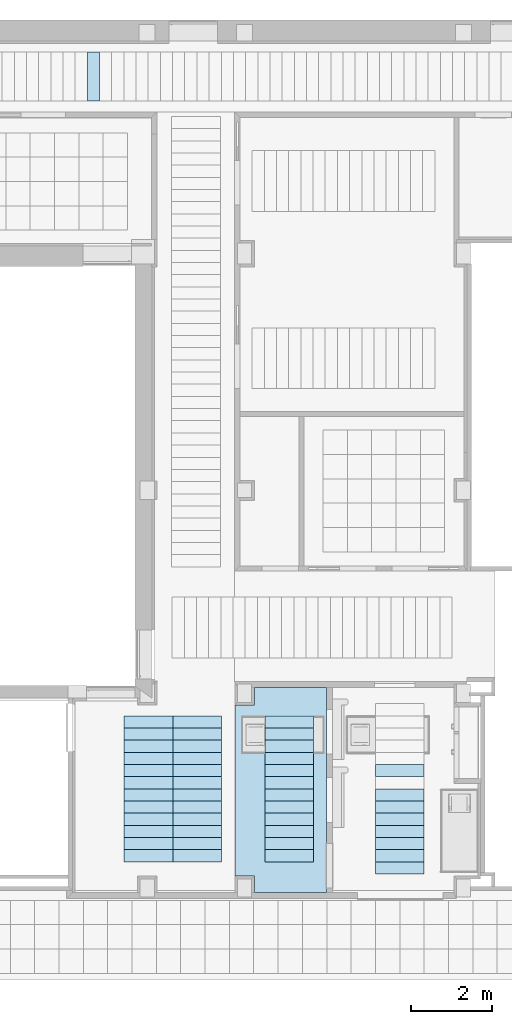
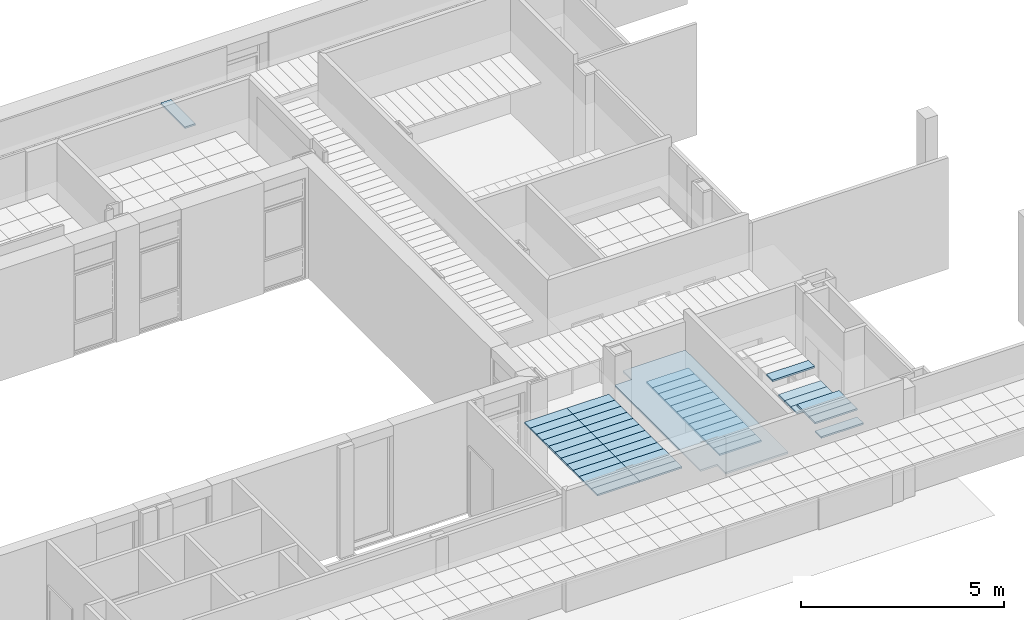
# One storey, part 10 of 60: 46 slabs.
"""IFC2X3 building model written with IfcOpenShell, lengths in millimetres."""

from ifc_helpers import new_model, entity, si_unit, converted_unit, derived_unit, money_unit, direction, frame, origin_with_axes, place, context, subcontext, project, spatial, polyline, outline, extrude, material, layer, layer_set, layer_usage, type_object, element, save


model = new_model("IFC2X3")

# Units and contexts
model_context = context("Model", 3, precision=0.01, world=origin_with_axes(), true_north=direction((0.0, 1.0)))
body_context = subcontext(model_context, "Body", "Model", "MODEL_VIEW")
ifc_project = project(units=[si_unit("LENGTHUNIT", "METRE", prefix="MILLI"), si_unit("AREAUNIT", "SQUARE_METRE"), si_unit("VOLUMEUNIT", "CUBIC_METRE"), converted_unit("PLANEANGLEUNIT", "DEGREE", entity("IfcPlaneAngleMeasure", 0.0174532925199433), si_unit("PLANEANGLEUNIT", "RADIAN"), dimensions=[0, 0, 0, 0, 0, 0, 0]), money_unit("USD"), converted_unit("TIMEUNIT", "Year", entity("IfcTimeMeasure", 31557600.0), si_unit("TIMEUNIT", "SECOND"), dimensions=[0, 0, 1, 0, 0, 0, 0]), si_unit("MASSUNIT", "GRAM", prefix="KILO"), si_unit("THERMODYNAMICTEMPERATUREUNIT", "DEGREE_CELSIUS"), si_unit("LUMINOUSINTENSITYUNIT", "LUMEN"), si_unit("ENERGYUNIT", "JOULE", prefix="MEGA"), derived_unit("THERMALCONDUCTANCEUNIT", [(si_unit("POWERUNIT", "WATT"), 1), (si_unit("LENGTHUNIT", "METRE"), -1), (si_unit("THERMODYNAMICTEMPERATUREUNIT", "KELVIN"), -1)]), derived_unit("SPECIFICHEATCAPACITYUNIT", [(si_unit("ENERGYUNIT", "JOULE"), 1), (si_unit("MASSUNIT", "GRAM", prefix="KILO"), -1), (si_unit("THERMODYNAMICTEMPERATUREUNIT", "KELVIN"), -1)]), derived_unit("MASSDENSITYUNIT", [(si_unit("MASSUNIT", "GRAM", prefix="KILO"), 1), (si_unit("VOLUMEUNIT", "CUBIC_METRE"), -1)])], contexts=[model_context])

# Site, building, storey
site_placement = place(None, origin_with_axes())
site = spatial("IfcSite", under=ifc_project, at=site_placement, Name="Sitio", CompositionType="ELEMENT")
building_placement = place(site_placement, origin_with_axes())
building = spatial("IfcBuilding", under=site, at=building_placement, Name="Construcción", CompositionType="ELEMENT")
storey_placement = place(building_placement, frame((0.0, 0.0, 3650.0), z_axis=(0.0, 0.0, 1.0), x_axis=(1.0, 0.0, 0.0)))
storey = spatial("IfcBuildingStorey", under=building, at=storey_placement, Name="PLANTA 2ª", CompositionType="ELEMENT", Elevation=3650.0)

# Slabs
ifc_material_1 = material(Name="ARQ_ME126_CelRas_Placa_Metallica")
ifc_layer_1 = layer(ifc_material_1, 50.0, ventilated="UNKNOWN")
ifc_layer_set_1 = layer_set([ifc_layer_1], Name="ARQ_ME126_CelRas_Placa_Metallica 50")
ifc_layer_usage_1 = layer_usage(ifc_layer_set_1, "AXIS3", "NEGATIVE", 50.0)
slab_type_1 = type_object("IfcSlabType", Name="ARQ_ME126_CelRas_Placa_Metallica 50", PredefinedType="NOTDEFINED")
slab_1_placement = place(storey_placement, frame((-1162.002209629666, -15771.4759060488, 2500.0), z_axis=(0.0, 0.0, 1.0), x_axis=(1.0, 0.0, 0.0)))
element("IfcSlab", 1, at=slab_1_placement, inside=storey, type_object=slab_type_1, material=ifc_layer_usage_1, Name="SLA - 026", PredefinedType="NOTDEFINED", context=body_context, shape_type="SweptSolid", body=[
    extrude(outline(polyline([(0.0, 0.0), (1199.999999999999, 0.0), (1199.999999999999, 299.9999999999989), (0.0, 299.9999999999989), (0.0, 0.0)])), frame((0.0, 0.0, -50.0), z_axis=(0.0, 0.0, 1.0), x_axis=(1.0, 0.0, 0.0)), (0.0, 0.0, 1.0), 50.0),
])
ifc_layer_usage_2 = layer_usage(ifc_layer_set_1, "AXIS3", "NEGATIVE", 50.0)
slab_2_placement = place(storey_placement, frame((-1162.002209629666, -16071.4759060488, 2500.0), z_axis=(0.0, 0.0, 1.0), x_axis=(1.0, 0.0, 0.0)))
element("IfcSlab", 2, at=slab_2_placement, inside=storey, type_object=slab_type_1, material=ifc_layer_usage_2, Name="SLA - 026", PredefinedType="NOTDEFINED", context=body_context, shape_type="SweptSolid", body=[
    extrude(outline(polyline([(0.0, 0.0), (1199.999999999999, 0.0), (1199.999999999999, 299.9999999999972), (0.0, 299.9999999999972), (0.0, 0.0)])), frame((0.0, 0.0, -50.0), z_axis=(0.0, 0.0, 1.0), x_axis=(1.0, 0.0, 0.0)), (0.0, 0.0, 1.0), 50.0),
])
ifc_layer_usage_3 = layer_usage(ifc_layer_set_1, "AXIS3", "NEGATIVE", 50.0)
slab_3_placement = place(storey_placement, frame((-1162.002209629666, -15471.4759060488, 2500.0), z_axis=(0.0, 0.0, 1.0), x_axis=(1.0, 0.0, 0.0)))
element("IfcSlab", 3, at=slab_3_placement, inside=storey, type_object=slab_type_1, material=ifc_layer_usage_3, Name="SLA - 026", PredefinedType="NOTDEFINED", context=body_context, shape_type="SweptSolid", body=[
    extrude(outline(polyline([(0.0, 0.0), (1199.999999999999, 0.0), (1199.999999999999, 299.9999999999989), (0.0, 299.9999999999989), (0.0, 0.0)])), frame((0.0, 0.0, -50.0), z_axis=(0.0, 0.0, 1.0), x_axis=(1.0, 0.0, 0.0)), (0.0, 0.0, 1.0), 50.0),
])
ifc_layer_usage_4 = layer_usage(ifc_layer_set_1, "AXIS3", "NEGATIVE", 50.0)
slab_4_placement = place(storey_placement, frame((-1162.002209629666, -14871.4759060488, 2500.0), z_axis=(0.0, 0.0, 1.0), x_axis=(1.0, 0.0, 0.0)))
element("IfcSlab", 4, at=slab_4_placement, inside=storey, type_object=slab_type_1, material=ifc_layer_usage_4, Name="SLA - 026", PredefinedType="NOTDEFINED", context=body_context, shape_type="SweptSolid", body=[
    extrude(outline(polyline([(0.0, 0.0), (1199.999999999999, 0.0), (1199.999999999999, 299.9999999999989), (0.0, 299.9999999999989), (0.0, 0.0)])), frame((0.0, 0.0, -50.0), z_axis=(0.0, 0.0, 1.0), x_axis=(1.0, 0.0, 0.0)), (0.0, 0.0, 1.0), 50.0),
])
ifc_layer_usage_5 = layer_usage(ifc_layer_set_1, "AXIS3", "NEGATIVE", 50.0)
slab_5_placement = place(storey_placement, frame((-1162.002209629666, -14571.4759060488, 2500.0), z_axis=(0.0, 0.0, 1.0), x_axis=(1.0, 0.0, 0.0)))
element("IfcSlab", 5, at=slab_5_placement, inside=storey, type_object=slab_type_1, material=ifc_layer_usage_5, Name="SLA - 026", PredefinedType="NOTDEFINED", context=body_context, shape_type="SweptSolid", body=[
    extrude(outline(polyline([(0.0, 0.0), (1199.999999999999, 0.0), (1199.999999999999, 299.9999999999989), (0.0, 299.9999999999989), (0.0, 0.0)])), frame((0.0, 0.0, -50.0), z_axis=(0.0, 0.0, 1.0), x_axis=(1.0, 0.0, 0.0)), (0.0, 0.0, 1.0), 50.0),
])
ifc_layer_usage_6 = layer_usage(ifc_layer_set_1, "AXIS3", "NEGATIVE", 50.0)
slab_6_placement = place(storey_placement, frame((-1162.002209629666, -14271.4759060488, 2500.0), z_axis=(0.0, 0.0, 1.0), x_axis=(1.0, 0.0, 0.0)))
element("IfcSlab", 6, at=slab_6_placement, inside=storey, type_object=slab_type_1, material=ifc_layer_usage_6, Name="SLA - 026", PredefinedType="NOTDEFINED", context=body_context, shape_type="SweptSolid", body=[
    extrude(outline(polyline([(0.0, 0.0), (1199.999999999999, 0.0), (1199.999999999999, 299.9999999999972), (0.0, 299.9999999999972), (0.0, 0.0)])), frame((0.0, 0.0, -50.0), z_axis=(0.0, 0.0, 1.0), x_axis=(1.0, 0.0, 0.0)), (0.0, 0.0, 1.0), 50.0),
])
ifc_layer_usage_7 = layer_usage(ifc_layer_set_1, "AXIS3", "NEGATIVE", 50.0)
slab_7_placement = place(storey_placement, frame((-1162.002209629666, -13971.4759060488, 2500.0), z_axis=(0.0, 0.0, 1.0), x_axis=(1.0, 0.0, 0.0)))
element("IfcSlab", 7, at=slab_7_placement, inside=storey, type_object=slab_type_1, material=ifc_layer_usage_7, Name="SLA - 026", PredefinedType="NOTDEFINED", context=body_context, shape_type="SweptSolid", body=[
    extrude(outline(polyline([(0.0, 0.0), (1199.999999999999, 0.0), (1199.999999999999, 299.9999999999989), (0.0, 299.9999999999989), (0.0, 0.0)])), frame((0.0, 0.0, -50.0), z_axis=(0.0, 0.0, 1.0), x_axis=(1.0, 0.0, 0.0)), (0.0, 0.0, 1.0), 50.0),
])
ifc_layer_usage_8 = layer_usage(ifc_layer_set_1, "AXIS3", "NEGATIVE", 50.0)
slab_8_placement = place(storey_placement, frame((-1162.002209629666, -16371.4759060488, 2500.0), z_axis=(0.0, 0.0, 1.0), x_axis=(1.0, 0.0, 0.0)))
element("IfcSlab", 8, at=slab_8_placement, inside=storey, type_object=slab_type_1, material=ifc_layer_usage_8, Name="SLA - 026", PredefinedType="NOTDEFINED", context=body_context, shape_type="SweptSolid", body=[
    extrude(outline(polyline([(0.0, 0.0), (1199.999999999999, 0.0), (1199.999999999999, 299.9999999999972), (0.0, 299.9999999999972), (0.0, 0.0)])), frame((0.0, 0.0, -50.0), z_axis=(0.0, 0.0, 1.0), x_axis=(1.0, 0.0, 0.0)), (0.0, 0.0, 1.0), 50.0),
])
ifc_layer_usage_9 = layer_usage(ifc_layer_set_1, "AXIS3", "NEGATIVE", 50.0)
slab_9_placement = place(storey_placement, frame((-1162.002209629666, -15171.4759060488, 2500.0), z_axis=(0.0, 0.0, 1.0), x_axis=(1.0, 0.0, 0.0)))
element("IfcSlab", 9, at=slab_9_placement, inside=storey, type_object=slab_type_1, material=ifc_layer_usage_9, Name="SLA - 026", PredefinedType="NOTDEFINED", context=body_context, shape_type="SweptSolid", body=[
    extrude(outline(polyline([(0.0, 0.0), (1199.999999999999, 0.0), (1199.999999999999, 299.9999999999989), (0.0, 299.9999999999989), (0.0, 0.0)])), frame((0.0, 0.0, -50.0), z_axis=(0.0, 0.0, 1.0), x_axis=(1.0, 0.0, 0.0)), (0.0, 0.0, 1.0), 50.0),
])
ifc_layer_usage_10 = layer_usage(ifc_layer_set_1, "AXIS3", "NEGATIVE", 50.0)
slab_10_placement = place(storey_placement, frame((-1162.002209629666, -13371.4759060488, 2500.0), z_axis=(0.0, 0.0, 1.0), x_axis=(1.0, 0.0, 0.0)))
element("IfcSlab", 10, at=slab_10_placement, inside=storey, type_object=slab_type_1, material=ifc_layer_usage_10, Name="SLA - 026", PredefinedType="NOTDEFINED", context=body_context, shape_type="SweptSolid", body=[
    extrude(outline(polyline([(0.0, 0.0), (1199.999999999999, 0.0), (1199.999999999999, 299.9999999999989), (0.0, 299.9999999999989), (0.0, 0.0)])), frame((0.0, 0.0, -50.0), z_axis=(0.0, 0.0, 1.0), x_axis=(1.0, 0.0, 0.0)), (0.0, 0.0, 1.0), 50.0),
])
ifc_layer_usage_11 = layer_usage(ifc_layer_set_1, "AXIS3", "NEGATIVE", 50.0)
slab_11_placement = place(storey_placement, frame((-1162.002209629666, -13671.4759060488, 2500.0), z_axis=(0.0, 0.0, 1.0), x_axis=(1.0, 0.0, 0.0)))
element("IfcSlab", 11, at=slab_11_placement, inside=storey, type_object=slab_type_1, material=ifc_layer_usage_11, Name="SLA - 026", PredefinedType="NOTDEFINED", context=body_context, shape_type="SweptSolid", body=[
    extrude(outline(polyline([(0.0, 0.0), (1199.999999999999, 0.0), (1199.999999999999, 299.9999999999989), (0.0, 299.9999999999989), (0.0, 0.0)])), frame((0.0, 0.0, -50.0), z_axis=(0.0, 0.0, 1.0), x_axis=(1.0, 0.0, 0.0)), (0.0, 0.0, 1.0), 50.0),
])
ifc_layer_usage_12 = layer_usage(ifc_layer_set_1, "AXIS3", "NEGATIVE", 50.0)
slab_12_placement = place(storey_placement, frame((-1162.002209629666, -13071.4759060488, 2500.0), z_axis=(0.0, 0.0, 1.0), x_axis=(1.0, 0.0, 0.0)))
element("IfcSlab", 12, at=slab_12_placement, inside=storey, type_object=slab_type_1, material=ifc_layer_usage_12, Name="SLA - 026", PredefinedType="NOTDEFINED", context=body_context, shape_type="SweptSolid", body=[
    extrude(outline(polyline([(0.0, 0.0), (1199.999999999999, 0.0), (1199.999999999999, 299.9999999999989), (0.0, 299.9999999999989), (0.0, 0.0)])), frame((0.0, 0.0, -50.0), z_axis=(0.0, 0.0, 1.0), x_axis=(1.0, 0.0, 0.0)), (0.0, 0.0, 1.0), 50.0),
])
ifc_layer_usage_13 = layer_usage(ifc_layer_set_1, "AXIS3", "NEGATIVE", 50.0)
slab_13_placement = place(storey_placement, frame((3832.900750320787, -16371.4759060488, 2500.0), z_axis=(0.0, 0.0, 1.0), x_axis=(1.0, 0.0, 0.0)))
element("IfcSlab", 13, at=slab_13_placement, inside=storey, type_object=slab_type_1, material=ifc_layer_usage_13, Name="SLA - 026", PredefinedType="NOTDEFINED", context=body_context, shape_type="SweptSolid", body=[
    extrude(outline(polyline([(0.0, 0.0), (1199.999999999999, 0.0), (1199.999999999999, 299.9999999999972), (0.0, 299.9999999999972), (0.0, 0.0)])), frame((0.0, 0.0, -50.0), z_axis=(0.0, 0.0, 1.0), x_axis=(1.0, 0.0, 0.0)), (0.0, 0.0, 1.0), 50.0),
])
ifc_layer_usage_14 = layer_usage(ifc_layer_set_1, "AXIS3", "NEGATIVE", 50.0)
slab_14_placement = place(storey_placement, frame((3832.900750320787, -16671.4759060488, 2250.0), z_axis=(0.0, 0.0, 1.0), x_axis=(1.0, 0.0, 0.0)))
element("IfcSlab", 14, at=slab_14_placement, inside=storey, type_object=slab_type_1, material=ifc_layer_usage_14, Name="SLA - 026", PredefinedType="NOTDEFINED", context=body_context, shape_type="SweptSolid", body=[
    extrude(outline(polyline([(0.0, 0.0), (1199.999999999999, 0.0), (1199.999999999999, 299.9999999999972), (0.0, 299.9999999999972), (0.0, 0.0)])), frame((0.0, 0.0, -50.0), z_axis=(0.0, 0.0, 1.0), x_axis=(1.0, 0.0, 0.0)), (0.0, 0.0, 1.0), 50.0),
])
ifc_layer_usage_15 = layer_usage(ifc_layer_set_1, "AXIS3", "NEGATIVE", 50.0)
slab_15_placement = place(storey_placement, frame((3832.900750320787, -16071.4759060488, 2500.0), z_axis=(0.0, 0.0, 1.0), x_axis=(1.0, 0.0, 0.0)))
element("IfcSlab", 15, at=slab_15_placement, inside=storey, type_object=slab_type_1, material=ifc_layer_usage_15, Name="SLA - 026", PredefinedType="NOTDEFINED", context=body_context, shape_type="SweptSolid", body=[
    extrude(outline(polyline([(0.0, 0.0), (1199.999999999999, 0.0), (1199.999999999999, 299.9999999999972), (0.0, 299.9999999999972), (0.0, 0.0)])), frame((0.0, 0.0, -50.0), z_axis=(0.0, 0.0, 1.0), x_axis=(1.0, 0.0, 0.0)), (0.0, 0.0, 1.0), 50.0),
])
ifc_layer_usage_16 = layer_usage(ifc_layer_set_1, "AXIS3", "NEGATIVE", 50.0)
slab_16_placement = place(storey_placement, frame((3832.900750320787, -15471.4759060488, 2250.0), z_axis=(0.0, 0.0, 1.0), x_axis=(1.0, 0.0, 0.0)))
element("IfcSlab", 16, at=slab_16_placement, inside=storey, type_object=slab_type_1, material=ifc_layer_usage_16, Name="SLA - 026", PredefinedType="NOTDEFINED", context=body_context, shape_type="SweptSolid", body=[
    extrude(outline(polyline([(0.0, 0.0), (1199.999999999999, 0.0), (1199.999999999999, 299.9999999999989), (0.0, 299.9999999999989), (0.0, 0.0)])), frame((0.0, 0.0, -50.0), z_axis=(0.0, 0.0, 1.0), x_axis=(1.0, 0.0, 0.0)), (0.0, 0.0, 1.0), 50.0),
])
ifc_layer_usage_17 = layer_usage(ifc_layer_set_1, "AXIS3", "NEGATIVE", 50.0)
slab_17_placement = place(storey_placement, frame((3832.900750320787, -15771.4759060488, 2500.0), z_axis=(0.0, 0.0, 1.0), x_axis=(1.0, 0.0, 0.0)))
element("IfcSlab", 17, at=slab_17_placement, inside=storey, type_object=slab_type_1, material=ifc_layer_usage_17, Name="SLA - 026", PredefinedType="NOTDEFINED", context=body_context, shape_type="SweptSolid", body=[
    extrude(outline(polyline([(0.0, 0.0), (1199.999999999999, 0.0), (1199.999999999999, 299.9999999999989), (0.0, 299.9999999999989), (0.0, 0.0)])), frame((0.0, 0.0, -50.0), z_axis=(0.0, 0.0, 1.0), x_axis=(1.0, 0.0, 0.0)), (0.0, 0.0, 1.0), 50.0),
])
ifc_layer_usage_18 = layer_usage(ifc_layer_set_1, "AXIS3", "NEGATIVE", 50.0)
slab_18_placement = place(storey_placement, frame((3832.900750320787, -15171.4759060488, 2250.0), z_axis=(0.0, 0.0, 1.0), x_axis=(1.0, 0.0, 0.0)))
element("IfcSlab", 18, at=slab_18_placement, inside=storey, type_object=slab_type_1, material=ifc_layer_usage_18, Name="SLA - 026", PredefinedType="NOTDEFINED", context=body_context, shape_type="SweptSolid", body=[
    extrude(outline(polyline([(0.0, 0.0), (1199.999999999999, 0.0), (1199.999999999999, 299.9999999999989), (0.0, 299.9999999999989), (0.0, 0.0)])), frame((0.0, 0.0, -50.0), z_axis=(0.0, 0.0, 1.0), x_axis=(1.0, 0.0, 0.0)), (0.0, 0.0, 1.0), 50.0),
])
ifc_layer_usage_19 = layer_usage(ifc_layer_set_1, "AXIS3", "NEGATIVE", 50.0)
slab_19_placement = place(storey_placement, frame((3832.900750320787, -14871.4759060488, 2250.0), z_axis=(0.0, 0.0, 1.0), x_axis=(1.0, 0.0, 0.0)))
element("IfcSlab", 19, at=slab_19_placement, inside=storey, type_object=slab_type_1, material=ifc_layer_usage_19, Name="SLA - 026", PredefinedType="NOTDEFINED", context=body_context, shape_type="SweptSolid", body=[
    extrude(outline(polyline([(0.0, 0.0), (1199.999999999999, 0.0), (1199.999999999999, 299.9999999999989), (0.0, 299.9999999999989), (0.0, 0.0)])), frame((0.0, 0.0, -50.0), z_axis=(0.0, 0.0, 1.0), x_axis=(1.0, 0.0, 0.0)), (0.0, 0.0, 1.0), 50.0),
])
ifc_layer_usage_20 = layer_usage(ifc_layer_set_1, "AXIS3", "NEGATIVE", 50.0)
slab_20_placement = place(storey_placement, frame((3832.900750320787, -14271.4759060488, 2500.0), z_axis=(0.0, 0.0, 1.0), x_axis=(1.0, 0.0, 0.0)))
element("IfcSlab", 20, at=slab_20_placement, inside=storey, type_object=slab_type_1, material=ifc_layer_usage_20, Name="SLA - 026", PredefinedType="NOTDEFINED", context=body_context, shape_type="SweptSolid", body=[
    extrude(outline(polyline([(0.0, 0.0), (1199.999999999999, 0.0), (1199.999999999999, 299.9999999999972), (0.0, 299.9999999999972), (0.0, 0.0)])), frame((0.0, 0.0, -50.0), z_axis=(0.0, 0.0, 1.0), x_axis=(1.0, 0.0, 0.0)), (0.0, 0.0, 1.0), 50.0),
])
ifc_layer_usage_21 = layer_usage(ifc_layer_set_1, "AXIS3", "NEGATIVE", 50.0)
slab_21_placement = place(storey_placement, frame((1109.364189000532, -13371.4759060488, 2500.0), z_axis=(0.0, 0.0, 1.0), x_axis=(1.0, 0.0, 0.0)))
element("IfcSlab", 21, at=slab_21_placement, inside=storey, type_object=slab_type_1, material=ifc_layer_usage_21, Name="SLA - 026", PredefinedType="NOTDEFINED", context=body_context, shape_type="SweptSolid", body=[
    extrude(outline(polyline([(0.0, 0.0), (1199.999999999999, 0.0), (1199.999999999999, 299.9999999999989), (0.0, 299.9999999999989), (0.0, 0.0)])), frame((0.0, 0.0, -50.0), z_axis=(0.0, 0.0, 1.0), x_axis=(1.0, 0.0, 0.0)), (0.0, 0.0, 1.0), 50.0),
])
ifc_layer_usage_22 = layer_usage(ifc_layer_set_1, "AXIS3", "NEGATIVE", 50.0)
slab_22_placement = place(storey_placement, frame((1109.364189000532, -13071.4759060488, 2500.0), z_axis=(0.0, 0.0, 1.0), x_axis=(1.0, 0.0, 0.0)))
element("IfcSlab", 22, at=slab_22_placement, inside=storey, type_object=slab_type_1, material=ifc_layer_usage_22, Name="SLA - 026", PredefinedType="NOTDEFINED", context=body_context, shape_type="SweptSolid", body=[
    extrude(outline(polyline([(0.0, 0.0), (1199.999999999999, 0.0), (1199.999999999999, 299.9999999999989), (0.0, 299.9999999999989), (0.0, 0.0)])), frame((0.0, 0.0, -50.0), z_axis=(0.0, 0.0, 1.0), x_axis=(1.0, 0.0, 0.0)), (0.0, 0.0, 1.0), 50.0),
])
ifc_layer_usage_23 = layer_usage(ifc_layer_set_1, "AXIS3", "NEGATIVE", 50.0)
slab_23_placement = place(storey_placement, frame((1109.364189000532, -13671.4759060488, 2500.0), z_axis=(0.0, 0.0, 1.0), x_axis=(1.0, 0.0, 0.0)))
element("IfcSlab", 23, at=slab_23_placement, inside=storey, type_object=slab_type_1, material=ifc_layer_usage_23, Name="SLA - 026", PredefinedType="NOTDEFINED", context=body_context, shape_type="SweptSolid", body=[
    extrude(outline(polyline([(0.0, 0.0), (1199.999999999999, 0.0), (1199.999999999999, 299.9999999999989), (0.0, 299.9999999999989), (0.0, 0.0)])), frame((0.0, 0.0, -50.0), z_axis=(0.0, 0.0, 1.0), x_axis=(1.0, 0.0, 0.0)), (0.0, 0.0, 1.0), 50.0),
])
ifc_layer_usage_24 = layer_usage(ifc_layer_set_1, "AXIS3", "NEGATIVE", 50.0)
slab_24_placement = place(storey_placement, frame((1109.364189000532, -14271.4759060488, 2500.0), z_axis=(0.0, 0.0, 1.0), x_axis=(1.0, 0.0, 0.0)))
element("IfcSlab", 24, at=slab_24_placement, inside=storey, type_object=slab_type_1, material=ifc_layer_usage_24, Name="SLA - 026", PredefinedType="NOTDEFINED", context=body_context, shape_type="SweptSolid", body=[
    extrude(outline(polyline([(0.0, 0.0), (1199.999999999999, 0.0), (1199.999999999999, 299.9999999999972), (0.0, 299.9999999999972), (0.0, 0.0)])), frame((0.0, 0.0, -50.0), z_axis=(0.0, 0.0, 1.0), x_axis=(1.0, 0.0, 0.0)), (0.0, 0.0, 1.0), 50.0),
])
ifc_layer_usage_25 = layer_usage(ifc_layer_set_1, "AXIS3", "NEGATIVE", 50.0)
slab_25_placement = place(storey_placement, frame((1109.364189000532, -14571.4759060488, 2500.0), z_axis=(0.0, 0.0, 1.0), x_axis=(1.0, 0.0, 0.0)))
element("IfcSlab", 25, at=slab_25_placement, inside=storey, type_object=slab_type_1, material=ifc_layer_usage_25, Name="SLA - 026", PredefinedType="NOTDEFINED", context=body_context, shape_type="SweptSolid", body=[
    extrude(outline(polyline([(0.0, 0.0), (1199.999999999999, 0.0), (1199.999999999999, 299.9999999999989), (0.0, 299.9999999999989), (0.0, 0.0)])), frame((0.0, 0.0, -50.0), z_axis=(0.0, 0.0, 1.0), x_axis=(1.0, 0.0, 0.0)), (0.0, 0.0, 1.0), 50.0),
])
ifc_layer_usage_26 = layer_usage(ifc_layer_set_1, "AXIS3", "NEGATIVE", 50.0)
slab_26_placement = place(storey_placement, frame((1109.364189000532, -14871.4759060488, 2500.0), z_axis=(0.0, 0.0, 1.0), x_axis=(1.0, 0.0, 0.0)))
element("IfcSlab", 26, at=slab_26_placement, inside=storey, type_object=slab_type_1, material=ifc_layer_usage_26, Name="SLA - 026", PredefinedType="NOTDEFINED", context=body_context, shape_type="SweptSolid", body=[
    extrude(outline(polyline([(0.0, 0.0), (1199.999999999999, 0.0), (1199.999999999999, 299.9999999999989), (0.0, 299.9999999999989), (0.0, 0.0)])), frame((0.0, 0.0, -50.0), z_axis=(0.0, 0.0, 1.0), x_axis=(1.0, 0.0, 0.0)), (0.0, 0.0, 1.0), 50.0),
])
ifc_layer_usage_27 = layer_usage(ifc_layer_set_1, "AXIS3", "NEGATIVE", 50.0)
slab_27_placement = place(storey_placement, frame((1109.364189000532, -15171.4759060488, 2500.0), z_axis=(0.0, 0.0, 1.0), x_axis=(1.0, 0.0, 0.0)))
element("IfcSlab", 27, at=slab_27_placement, inside=storey, type_object=slab_type_1, material=ifc_layer_usage_27, Name="SLA - 026", PredefinedType="NOTDEFINED", context=body_context, shape_type="SweptSolid", body=[
    extrude(outline(polyline([(0.0, 0.0), (1199.999999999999, 0.0), (1199.999999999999, 299.9999999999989), (0.0, 299.9999999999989), (0.0, 0.0)])), frame((0.0, 0.0, -50.0), z_axis=(0.0, 0.0, 1.0), x_axis=(1.0, 0.0, 0.0)), (0.0, 0.0, 1.0), 50.0),
])
ifc_layer_usage_28 = layer_usage(ifc_layer_set_1, "AXIS3", "NEGATIVE", 50.0)
slab_28_placement = place(storey_placement, frame((1109.364189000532, -15471.4759060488, 2500.0), z_axis=(0.0, 0.0, 1.0), x_axis=(1.0, 0.0, 0.0)))
element("IfcSlab", 28, at=slab_28_placement, inside=storey, type_object=slab_type_1, material=ifc_layer_usage_28, Name="SLA - 026", PredefinedType="NOTDEFINED", context=body_context, shape_type="SweptSolid", body=[
    extrude(outline(polyline([(0.0, 0.0), (1199.999999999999, 0.0), (1199.999999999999, 299.9999999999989), (0.0, 299.9999999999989), (0.0, 0.0)])), frame((0.0, 0.0, -50.0), z_axis=(0.0, 0.0, 1.0), x_axis=(1.0, 0.0, 0.0)), (0.0, 0.0, 1.0), 50.0),
])
ifc_layer_usage_29 = layer_usage(ifc_layer_set_1, "AXIS3", "NEGATIVE", 50.0)
slab_29_placement = place(storey_placement, frame((1109.364189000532, -15771.4759060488, 2500.0), z_axis=(0.0, 0.0, 1.0), x_axis=(1.0, 0.0, 0.0)))
element("IfcSlab", 29, at=slab_29_placement, inside=storey, type_object=slab_type_1, material=ifc_layer_usage_29, Name="SLA - 026", PredefinedType="NOTDEFINED", context=body_context, shape_type="SweptSolid", body=[
    extrude(outline(polyline([(0.0, 0.0), (1199.999999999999, 0.0), (1199.999999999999, 299.9999999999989), (0.0, 299.9999999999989), (0.0, 0.0)])), frame((0.0, 0.0, -50.0), z_axis=(0.0, 0.0, 1.0), x_axis=(1.0, 0.0, 0.0)), (0.0, 0.0, 1.0), 50.0),
])
ifc_layer_usage_30 = layer_usage(ifc_layer_set_1, "AXIS3", "NEGATIVE", 50.0)
slab_30_placement = place(storey_placement, frame((1109.364189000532, -16071.4759060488, 2500.0), z_axis=(0.0, 0.0, 1.0), x_axis=(1.0, 0.0, 0.0)))
element("IfcSlab", 30, at=slab_30_placement, inside=storey, type_object=slab_type_1, material=ifc_layer_usage_30, Name="SLA - 026", PredefinedType="NOTDEFINED", context=body_context, shape_type="SweptSolid", body=[
    extrude(outline(polyline([(0.0, 0.0), (1199.999999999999, 0.0), (1199.999999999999, 299.9999999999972), (0.0, 299.9999999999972), (0.0, 0.0)])), frame((0.0, 0.0, -50.0), z_axis=(0.0, 0.0, 1.0), x_axis=(1.0, 0.0, 0.0)), (0.0, 0.0, 1.0), 50.0),
])
ifc_layer_usage_31 = layer_usage(ifc_layer_set_1, "AXIS3", "NEGATIVE", 50.0)
slab_31_placement = place(storey_placement, frame((1109.364189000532, -16371.4759060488, 2500.0), z_axis=(0.0, 0.0, 1.0), x_axis=(1.0, 0.0, 0.0)))
element("IfcSlab", 31, at=slab_31_placement, inside=storey, type_object=slab_type_1, material=ifc_layer_usage_31, Name="SLA - 026", PredefinedType="NOTDEFINED", context=body_context, shape_type="SweptSolid", body=[
    extrude(outline(polyline([(0.0, 0.0), (1199.999999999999, 0.0), (1199.999999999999, 299.9999999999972), (0.0, 299.9999999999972), (0.0, 0.0)])), frame((0.0, 0.0, -50.0), z_axis=(0.0, 0.0, 1.0), x_axis=(1.0, 0.0, 0.0)), (0.0, 0.0, 1.0), 50.0),
])
ifc_layer_usage_32 = layer_usage(ifc_layer_set_1, "AXIS3", "NEGATIVE", 50.0)
slab_32_placement = place(storey_placement, frame((1109.364189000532, -13971.4759060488, 2500.0), z_axis=(0.0, 0.0, 1.0), x_axis=(1.0, 0.0, 0.0)))
element("IfcSlab", 32, at=slab_32_placement, inside=storey, type_object=slab_type_1, material=ifc_layer_usage_32, Name="SLA - 026", PredefinedType="NOTDEFINED", context=body_context, shape_type="SweptSolid", body=[
    extrude(outline(polyline([(0.0, 0.0), (1199.999999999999, 0.0), (1199.999999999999, 299.9999999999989), (0.0, 299.9999999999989), (0.0, 0.0)])), frame((0.0, 0.0, -50.0), z_axis=(0.0, 0.0, 1.0), x_axis=(1.0, 0.0, 0.0)), (0.0, 0.0, 1.0), 50.0),
])
ifc_layer_usage_33 = layer_usage(ifc_layer_set_1, "AXIS3", "NEGATIVE", 50.0)
slab_33_placement = place(storey_placement, frame((-3270.237082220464, 3586.50452866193, 2500.0), z_axis=(0.0, 0.0, 1.0), x_axis=(1.0, 0.0, 0.0)))
element("IfcSlab", 33, at=slab_33_placement, inside=storey, type_object=slab_type_1, material=ifc_layer_usage_33, Name="SLA - 026", PredefinedType="NOTDEFINED", context=body_context, shape_type="SweptSolid", body=[
    extrude(outline(polyline([(0.0, 0.0), (0.0, -1199.999999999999), (300.0000000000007, -1199.999999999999), (300.0000000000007, 0.0), (0.0, 0.0)])), frame((0.0, 0.0, -50.0), z_axis=(0.0, 0.0, 1.0), x_axis=(1.0, 0.0, 0.0)), (0.0, 0.0, 1.0), 50.0),
])
ifc_layer_usage_34 = layer_usage(ifc_layer_set_1, "AXIS3", "NEGATIVE", 50.0)
slab_34_placement = place(storey_placement, frame((-2362.002209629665, -16371.4759060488, 2500.0), z_axis=(0.0, 0.0, 1.0), x_axis=(1.0, 0.0, 0.0)))
element("IfcSlab", 34, at=slab_34_placement, inside=storey, type_object=slab_type_1, material=ifc_layer_usage_34, Name="SLA - 026", PredefinedType="NOTDEFINED", context=body_context, shape_type="SweptSolid", body=[
    extrude(outline(polyline([(0.0, 0.0), (1199.999999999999, 0.0), (1199.999999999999, 299.9999999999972), (0.0, 299.9999999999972), (0.0, 0.0)])), frame((0.0, 0.0, -50.0), z_axis=(0.0, 0.0, 1.0), x_axis=(1.0, 0.0, 0.0)), (0.0, 0.0, 1.0), 50.0),
])
ifc_layer_usage_35 = layer_usage(ifc_layer_set_1, "AXIS3", "NEGATIVE", 50.0)
slab_35_placement = place(storey_placement, frame((-2362.002209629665, -16071.4759060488, 2500.0), z_axis=(0.0, 0.0, 1.0), x_axis=(1.0, 0.0, 0.0)))
element("IfcSlab", 35, at=slab_35_placement, inside=storey, type_object=slab_type_1, material=ifc_layer_usage_35, Name="SLA - 026", PredefinedType="NOTDEFINED", context=body_context, shape_type="SweptSolid", body=[
    extrude(outline(polyline([(0.0, 0.0), (1199.999999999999, 0.0), (1199.999999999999, 299.9999999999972), (0.0, 299.9999999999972), (0.0, 0.0)])), frame((0.0, 0.0, -50.0), z_axis=(0.0, 0.0, 1.0), x_axis=(1.0, 0.0, 0.0)), (0.0, 0.0, 1.0), 50.0),
])
ifc_layer_usage_36 = layer_usage(ifc_layer_set_1, "AXIS3", "NEGATIVE", 50.0)
slab_36_placement = place(storey_placement, frame((-2362.002209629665, -15771.4759060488, 2500.0), z_axis=(0.0, 0.0, 1.0), x_axis=(1.0, 0.0, 0.0)))
element("IfcSlab", 36, at=slab_36_placement, inside=storey, type_object=slab_type_1, material=ifc_layer_usage_36, Name="SLA - 026", PredefinedType="NOTDEFINED", context=body_context, shape_type="SweptSolid", body=[
    extrude(outline(polyline([(0.0, 0.0), (1199.999999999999, 0.0), (1199.999999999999, 299.9999999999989), (0.0, 299.9999999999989), (0.0, 0.0)])), frame((0.0, 0.0, -50.0), z_axis=(0.0, 0.0, 1.0), x_axis=(1.0, 0.0, 0.0)), (0.0, 0.0, 1.0), 50.0),
])
ifc_layer_usage_37 = layer_usage(ifc_layer_set_1, "AXIS3", "NEGATIVE", 50.0)
slab_37_placement = place(storey_placement, frame((-2362.002209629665, -15471.4759060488, 2500.0), z_axis=(0.0, 0.0, 1.0), x_axis=(1.0, 0.0, 0.0)))
element("IfcSlab", 37, at=slab_37_placement, inside=storey, type_object=slab_type_1, material=ifc_layer_usage_37, Name="SLA - 026", PredefinedType="NOTDEFINED", context=body_context, shape_type="SweptSolid", body=[
    extrude(outline(polyline([(0.0, 0.0), (1199.999999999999, 0.0), (1199.999999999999, 299.9999999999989), (0.0, 299.9999999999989), (0.0, 0.0)])), frame((0.0, 0.0, -50.0), z_axis=(0.0, 0.0, 1.0), x_axis=(1.0, 0.0, 0.0)), (0.0, 0.0, 1.0), 50.0),
])
ifc_layer_usage_38 = layer_usage(ifc_layer_set_1, "AXIS3", "NEGATIVE", 50.0)
slab_38_placement = place(storey_placement, frame((-2362.002209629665, -15171.4759060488, 2500.0), z_axis=(0.0, 0.0, 1.0), x_axis=(1.0, 0.0, 0.0)))
element("IfcSlab", 38, at=slab_38_placement, inside=storey, type_object=slab_type_1, material=ifc_layer_usage_38, Name="SLA - 026", PredefinedType="NOTDEFINED", context=body_context, shape_type="SweptSolid", body=[
    extrude(outline(polyline([(0.0, 0.0), (1199.999999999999, 0.0), (1199.999999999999, 299.9999999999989), (0.0, 299.9999999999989), (0.0, 0.0)])), frame((0.0, 0.0, -50.0), z_axis=(0.0, 0.0, 1.0), x_axis=(1.0, 0.0, 0.0)), (0.0, 0.0, 1.0), 50.0),
])
ifc_layer_usage_39 = layer_usage(ifc_layer_set_1, "AXIS3", "NEGATIVE", 50.0)
slab_39_placement = place(storey_placement, frame((-2362.002209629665, -14871.4759060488, 2500.0), z_axis=(0.0, 0.0, 1.0), x_axis=(1.0, 0.0, 0.0)))
element("IfcSlab", 39, at=slab_39_placement, inside=storey, type_object=slab_type_1, material=ifc_layer_usage_39, Name="SLA - 026", PredefinedType="NOTDEFINED", context=body_context, shape_type="SweptSolid", body=[
    extrude(outline(polyline([(0.0, 0.0), (1199.999999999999, 0.0), (1199.999999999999, 299.9999999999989), (0.0, 299.9999999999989), (0.0, 0.0)])), frame((0.0, 0.0, -50.0), z_axis=(0.0, 0.0, 1.0), x_axis=(1.0, 0.0, 0.0)), (0.0, 0.0, 1.0), 50.0),
])
ifc_layer_usage_40 = layer_usage(ifc_layer_set_1, "AXIS3", "NEGATIVE", 50.0)
slab_40_placement = place(storey_placement, frame((-2362.002209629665, -14271.4759060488, 2500.0), z_axis=(0.0, 0.0, 1.0), x_axis=(1.0, 0.0, 0.0)))
element("IfcSlab", 40, at=slab_40_placement, inside=storey, type_object=slab_type_1, material=ifc_layer_usage_40, Name="SLA - 026", PredefinedType="NOTDEFINED", context=body_context, shape_type="SweptSolid", body=[
    extrude(outline(polyline([(0.0, 0.0), (1199.999999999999, 0.0), (1199.999999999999, 299.9999999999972), (0.0, 299.9999999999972), (0.0, 0.0)])), frame((0.0, 0.0, -50.0), z_axis=(0.0, 0.0, 1.0), x_axis=(1.0, 0.0, 0.0)), (0.0, 0.0, 1.0), 50.0),
])
ifc_layer_usage_41 = layer_usage(ifc_layer_set_1, "AXIS3", "NEGATIVE", 50.0)
slab_41_placement = place(storey_placement, frame((-2362.002209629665, -13971.4759060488, 2500.0), z_axis=(0.0, 0.0, 1.0), x_axis=(1.0, 0.0, 0.0)))
element("IfcSlab", 41, at=slab_41_placement, inside=storey, type_object=slab_type_1, material=ifc_layer_usage_41, Name="SLA - 026", PredefinedType="NOTDEFINED", context=body_context, shape_type="SweptSolid", body=[
    extrude(outline(polyline([(0.0, 0.0), (1199.999999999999, 0.0), (1199.999999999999, 299.9999999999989), (0.0, 299.9999999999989), (0.0, 0.0)])), frame((0.0, 0.0, -50.0), z_axis=(0.0, 0.0, 1.0), x_axis=(1.0, 0.0, 0.0)), (0.0, 0.0, 1.0), 50.0),
])
ifc_layer_usage_42 = layer_usage(ifc_layer_set_1, "AXIS3", "NEGATIVE", 50.0)
slab_42_placement = place(storey_placement, frame((-2362.002209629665, -14571.4759060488, 2500.0), z_axis=(0.0, 0.0, 1.0), x_axis=(1.0, 0.0, 0.0)))
element("IfcSlab", 42, at=slab_42_placement, inside=storey, type_object=slab_type_1, material=ifc_layer_usage_42, Name="SLA - 026", PredefinedType="NOTDEFINED", context=body_context, shape_type="SweptSolid", body=[
    extrude(outline(polyline([(0.0, 0.0), (1199.999999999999, 0.0), (1199.999999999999, 299.9999999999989), (0.0, 299.9999999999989), (0.0, 0.0)])), frame((0.0, 0.0, -50.0), z_axis=(0.0, 0.0, 1.0), x_axis=(1.0, 0.0, 0.0)), (0.0, 0.0, 1.0), 50.0),
])
ifc_layer_usage_43 = layer_usage(ifc_layer_set_1, "AXIS3", "NEGATIVE", 50.0)
slab_43_placement = place(storey_placement, frame((-2362.002209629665, -13671.4759060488, 2500.0), z_axis=(0.0, 0.0, 1.0), x_axis=(1.0, 0.0, 0.0)))
element("IfcSlab", 43, at=slab_43_placement, inside=storey, type_object=slab_type_1, material=ifc_layer_usage_43, Name="SLA - 026", PredefinedType="NOTDEFINED", context=body_context, shape_type="SweptSolid", body=[
    extrude(outline(polyline([(0.0, 0.0), (1199.999999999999, 0.0), (1199.999999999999, 299.9999999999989), (0.0, 299.9999999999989), (0.0, 0.0)])), frame((0.0, 0.0, -50.0), z_axis=(0.0, 0.0, 1.0), x_axis=(1.0, 0.0, 0.0)), (0.0, 0.0, 1.0), 50.0),
])
ifc_layer_usage_44 = layer_usage(ifc_layer_set_1, "AXIS3", "NEGATIVE", 50.0)
slab_44_placement = place(storey_placement, frame((-2362.002209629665, -13371.4759060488, 2500.0), z_axis=(0.0, 0.0, 1.0), x_axis=(1.0, 0.0, 0.0)))
element("IfcSlab", 44, at=slab_44_placement, inside=storey, type_object=slab_type_1, material=ifc_layer_usage_44, Name="SLA - 026", PredefinedType="NOTDEFINED", context=body_context, shape_type="SweptSolid", body=[
    extrude(outline(polyline([(0.0, 0.0), (1199.999999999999, 0.0), (1199.999999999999, 299.9999999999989), (0.0, 299.9999999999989), (0.0, 0.0)])), frame((0.0, 0.0, -50.0), z_axis=(0.0, 0.0, 1.0), x_axis=(1.0, 0.0, 0.0)), (0.0, 0.0, 1.0), 50.0),
])
ifc_layer_usage_45 = layer_usage(ifc_layer_set_1, "AXIS3", "NEGATIVE", 50.0)
slab_45_placement = place(storey_placement, frame((-2362.002209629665, -13071.4759060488, 2500.0), z_axis=(0.0, 0.0, 1.0), x_axis=(1.0, 0.0, 0.0)))
element("IfcSlab", 45, at=slab_45_placement, inside=storey, type_object=slab_type_1, material=ifc_layer_usage_45, Name="SLA - 026", PredefinedType="NOTDEFINED", context=body_context, shape_type="SweptSolid", body=[
    extrude(outline(polyline([(0.0, 0.0), (1199.999999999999, 0.0), (1199.999999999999, 299.9999999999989), (0.0, 299.9999999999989), (0.0, 0.0)])), frame((0.0, 0.0, -50.0), z_axis=(0.0, 0.0, 1.0), x_axis=(1.0, 0.0, 0.0)), (0.0, 0.0, 1.0), 50.0),
])
ifc_material_2 = material(Name="ARQ_CG064_CelRas_Guix_Continu")
ifc_layer_2 = layer(ifc_material_2, 53.0, ventilated="UNKNOWN")
ifc_layer_set_2 = layer_set([ifc_layer_2], Name="ARQ_CG064_CelRas_Guix_Continu 53")
ifc_layer_usage_46 = layer_usage(ifc_layer_set_2, "AXIS3", "NEGATIVE", 53.0)
slab_type_2 = type_object("IfcSlabType", Name="ARQ_CG064_CelRas_Guix_Continu 53", PredefinedType="NOTDEFINED")
slab_46_placement = place(storey_placement, frame((843.8910510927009, -17130.97565901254, 2500.0), z_axis=(0.0, 0.0, 1.0), x_axis=(1.0, 0.0, 0.0)))
element("IfcSlab", 46, at=slab_46_placement, inside=storey, type_object=slab_type_2, material=ifc_layer_usage_46, Name="SLA - 017", PredefinedType="NOTDEFINED", context=body_context, shape_type="SweptSolid", body=[
    extrude(outline(polyline([(0.0, 0.0), (1779.021921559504, 0.0), (1779.021921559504, 5060.999835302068), (0.0, 5060.999835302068), (-3.444036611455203e-06, 4626.999835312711), (-480.0000587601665, 4626.999834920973), (-480.0000553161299, 407.0000002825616), (0.0, 407.0000006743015), (0.0, 0.0)])), frame((0.0, 0.0, -53.0), z_axis=(0.0, 0.0, 1.0), x_axis=(1.0, 0.0, 0.0)), (0.0, 0.0, 1.0), 53.0),
])

save(model, "model.ifc")
